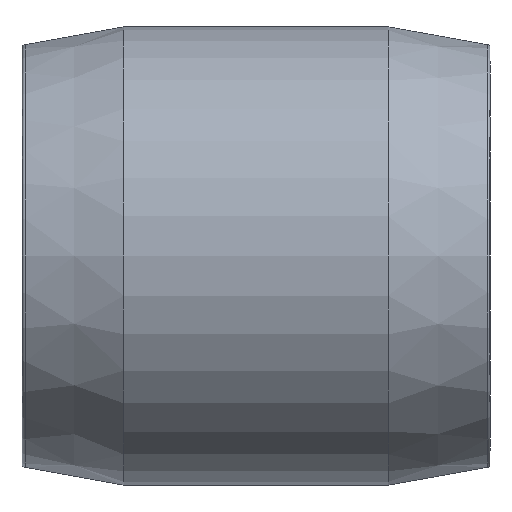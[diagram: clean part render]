
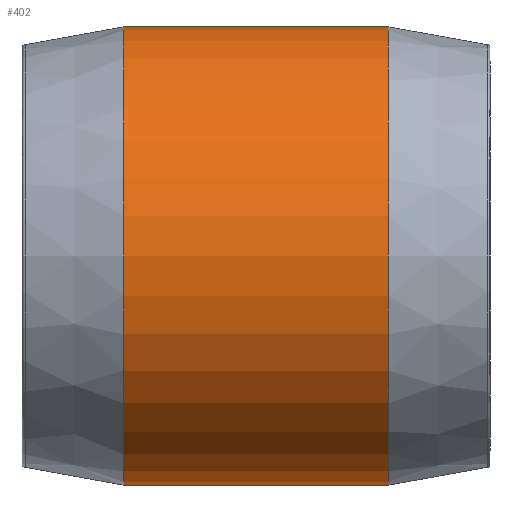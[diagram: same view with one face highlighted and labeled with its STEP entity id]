
A CAD part, front view. The second image highlights one B-rep face of the part: STEP entity #402.
In plain terms, the highlighted cylindrical face has radius 75.5 mm (diameter 151 mm), a partial arc.
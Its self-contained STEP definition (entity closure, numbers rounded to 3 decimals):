
#134 = CARTESIAN_POINT ( 'NONE',  ( 39., 0., 0. ) ) ;
#249 = CARTESIAN_POINT ( 'NONE',  ( 126.2, 0., 0. ) ) ;
#370 = DIRECTION ( 'NONE',  ( -1., 0., 0. ) ) ;
#375 = CARTESIAN_POINT ( 'NONE',  ( 0., 0., 0. ) ) ;
#402 = ADVANCED_FACE ( 'NONE', ( #2079 ), #1978, .T. ) ;
#424 = CARTESIAN_POINT ( 'NONE',  ( 126.2, 0., 75.5 ) ) ;
#523 = LINE ( 'NONE', #1651, #917 ) ;
#619 = ORIENTED_EDGE ( 'NONE', *, *, #1460, .T. ) ;
#630 = CARTESIAN_POINT ( 'NONE',  ( 126.2, 0., -75.5 ) ) ;
#726 = EDGE_CURVE ( 'NONE', #997, #1797, #1698, .T. ) ;
#750 = ORIENTED_EDGE ( 'NONE', *, *, #726, .F. ) ;
#848 = CARTESIAN_POINT ( 'NONE',  ( 0., 0., -75.5 ) ) ;
#862 = EDGE_LOOP ( 'NONE', ( #750, #619, #1291, #1064 ) ) ;
#875 = DIRECTION ( 'NONE',  ( 0., 0., 1. ) ) ;
#902 = DIRECTION ( 'NONE',  ( -1., 0., 0. ) ) ;
#917 = VECTOR ( 'NONE', #1627, 1000. ) ;
#918 = AXIS2_PLACEMENT_3D ( 'NONE', #249, #1406, #1297 ) ;
#950 = CARTESIAN_POINT ( 'NONE',  ( 39., 0., 75.5 ) ) ;
#961 = AXIS2_PLACEMENT_3D ( 'NONE', #134, #2127, #2120 ) ;
#975 = CIRCLE ( 'NONE', #961, 75.5 ) ;
#997 = VERTEX_POINT ( 'NONE', #630 ) ;
#1064 = ORIENTED_EDGE ( 'NONE', *, *, #1911, .F. ) ;
#1236 = VECTOR ( 'NONE', #902, 1000. ) ;
#1237 = CIRCLE ( 'NONE', #918, 75.5 ) ;
#1291 = ORIENTED_EDGE ( 'NONE', *, *, #1906, .T. ) ;
#1297 = DIRECTION ( 'NONE',  ( 0., 0., 1. ) ) ;
#1370 = CARTESIAN_POINT ( 'NONE',  ( 39., 0., -75.5 ) ) ;
#1406 = DIRECTION ( 'NONE',  ( -1., 0., 0. ) ) ;
#1437 = VERTEX_POINT ( 'NONE', #424 ) ;
#1460 = EDGE_CURVE ( 'NONE', #997, #1437, #1237, .T. ) ;
#1627 = DIRECTION ( 'NONE',  ( -1., 0., 0. ) ) ;
#1651 = CARTESIAN_POINT ( 'NONE',  ( 0., 0., 75.5 ) ) ;
#1664 = VERTEX_POINT ( 'NONE', #950 ) ;
#1698 = LINE ( 'NONE', #848, #1236 ) ;
#1797 = VERTEX_POINT ( 'NONE', #1370 ) ;
#1906 = EDGE_CURVE ( 'NONE', #1437, #1664, #523, .T. ) ;
#1911 = EDGE_CURVE ( 'NONE', #1797, #1664, #975, .T. ) ;
#1978 = CYLINDRICAL_SURFACE ( 'NONE', #2065, 75.5 ) ;
#2065 = AXIS2_PLACEMENT_3D ( 'NONE', #375, #370, #875 ) ;
#2079 = FACE_OUTER_BOUND ( 'NONE', #862, .T. ) ;
#2120 = DIRECTION ( 'NONE',  ( 0., 0., 1. ) ) ;
#2127 = DIRECTION ( 'NONE',  ( -1., 0., 0. ) ) ;
